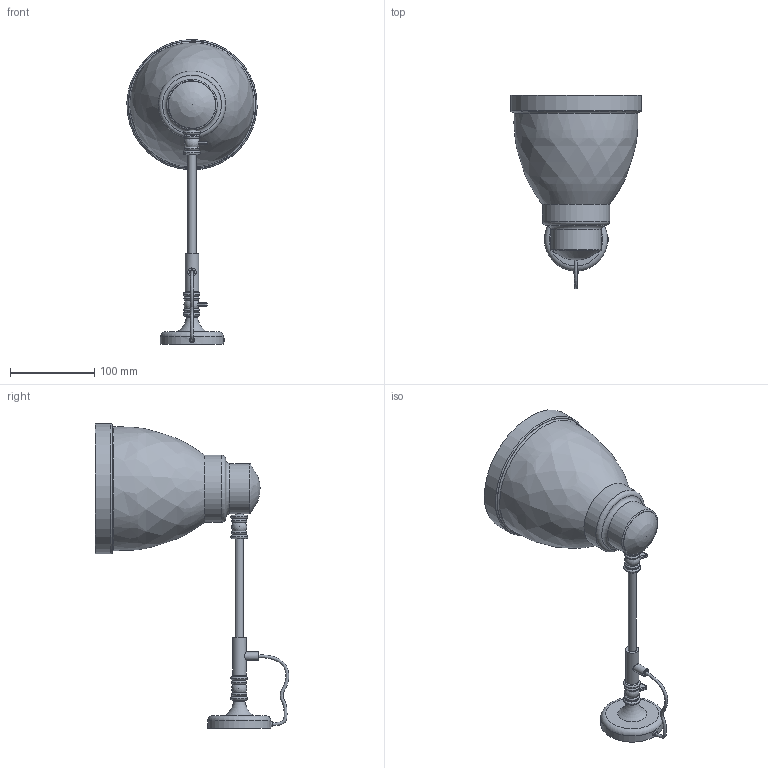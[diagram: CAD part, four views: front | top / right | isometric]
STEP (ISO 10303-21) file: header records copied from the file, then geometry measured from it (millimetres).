
FILE_DESCRIPTION(/* description */ (''),/* implementation_level */ '2;1');
FILE_NAME(/* name */ 'C:\Users\Patryk\Desktop\Modele BIAŁY\T57\KINKIET T57.stp',/* time_stamp */ '2019-12-15T01:11:00+01:00',/* author */ ('Patryk'),/* organization */ (''),/* preprocessor_version */ 'ST-DEVELOPER v17',/* originating_system */ 'Autodesk Inventor 2019',/* authorisation */ '');
FILE_SCHEMA (('AUTOMOTIVE_DESIGN { 1 0 10303 214 3 1 1 }'));
Length unit declared in the file: millimetre
Products named in the file (11): KINKIET T57; T14 klosz; T14 mocowanie do ściany; T57 rurka; T57 stozek; kulka; sruba; T57 motyl; T57 rurka II; T57 kabel; klosz II
Assembly tree (12 placements, depth 2):
  KINKIET T57
    T14 klosz
    T14 mocowanie do ściany
    T57 rurka
    T57 stozek
    kulka  x2
    sruba
    T57 motyl  x2
    T57 rurka II
    T57 kabel
    klosz II
Bounding box: 154.9 x 230.04 x 362.45 mm (x, y, z)
Volume: 500228.4 mm3; surface area: 207866.5 mm2
Topology: 12 solids, 12 shells, 155 faces, 370 edges, 249 vertices
Faces by surface type: cylinder 62, plane 45, torus 28, bspline 17, sphere 3
Full cylindrical faces by diameter (mm): 2.5 x1, 4 x4, 6 x4, 8 x1, 10 x6, 14.464 x4, 16 x1, 18 x4, 20 x4, 37.982 x1, 56 x1, 60 x1, 71 x1, 75 x1, 76 x1, 80 x1, 151 x1, 155 x1
Entity records: 4645 total; most frequent: CARTESIAN_POINT 1436, DIRECTION 692, ORIENTED_EDGE 528, AXIS2_PLACEMENT_3D 316, EDGE_CURVE 264, CIRCLE 186, VERTEX_POINT 184, EDGE_LOOP 140
